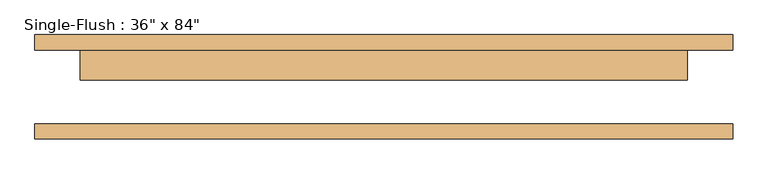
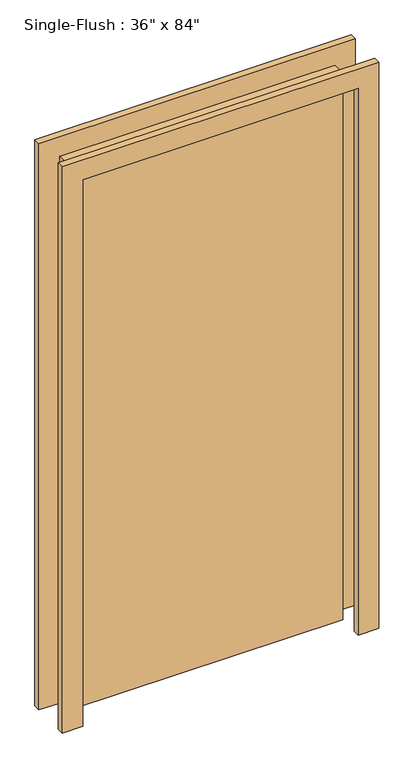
"""IFC4 building model written with IfcOpenShell, lengths in millimetres: door geometry."""

from ifc_helpers import new_model, si_unit, frame, origin, origin_with_axes, place, context, project, spatial, polyline, outline, extrude, source, transform, mapped, element, save


def door_55d8558a(model_context):
    return source(origin(), model_context, "Body", "SweptSolid", [
        extrude(outline(polyline([(2209.8, -584.2), (0.0, -584.2), (0.0, -508.0), (2133.6, -508.0), (2133.6, 508.0), (0.0, 508.0), (0.0, 584.2), (2209.8, 584.2), (2209.8, -584.2)])), frame((0.0, 61.9125, 0.0), z_axis=(0.0, 1.0, 0.0), x_axis=(0.0, 0.0, 1.0)), (0.0, 0.0, 1.0), 25.4),
        extrude(outline(polyline([(2209.8, 584.2), (2209.8, -584.2), (0.0, -584.2), (0.0, -508.0), (2133.6, -508.0), (2133.6, 508.0), (0.0, 508.0), (0.0, 584.2), (2209.8, 584.2)])), frame((0.0, -87.3125, 0.0), z_axis=(0.0, 1.0, 0.0), x_axis=(0.0, 0.0, 1.0)), (0.0, 0.0, 1.0), 25.4),
        extrude(outline(polyline([(508.0, 11.1125), (-508.0, 11.1125), (-508.0, 61.9125), (508.0, 61.9125), (508.0, 11.1125)])), origin_with_axes(), (0.0, 0.0, 1.0), 2133.6),
    ])


if __name__ == "__main__":
    model = new_model("IFC4")
    model_context = context("Model", 3, world=origin())
    ifc_project = project(units=[si_unit("LENGTHUNIT", "METRE", prefix="MILLI")], contexts=[model_context])
    site = spatial("IfcSite", under=ifc_project)
    building = spatial("IfcBuilding", under=site)
    placement = place(None, origin())
    door_shape = door_55d8558a(model_context)
    element("IfcDoor", 1, ObjectType="Single-Flush : 36\" x 84\"", at=placement, inside=building, context=model_context, shape_type="MappedRepresentation", body=[
        mapped(door_shape, transform((0.0, 0.0, 0.0), x_axis=(1.0, 0.0, 0.0), y_axis=(0.0, 1.0, 0.0), z_axis=(0.0, 0.0, 1.0))),
    ])
    save(model, "model.ifc")
